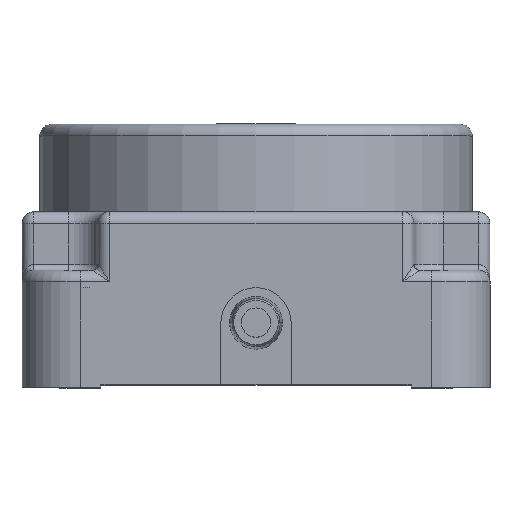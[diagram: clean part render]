
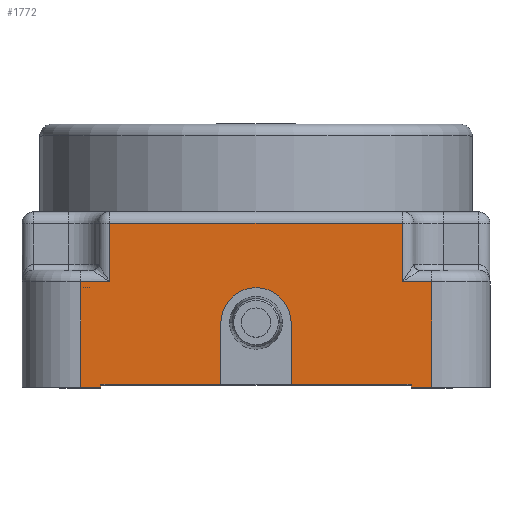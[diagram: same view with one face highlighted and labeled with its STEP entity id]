
A CAD part, top view. The second image highlights one B-rep face of the part: STEP entity #1772.
In plain terms, the highlighted planar face has unit normal (0, 0, 1).
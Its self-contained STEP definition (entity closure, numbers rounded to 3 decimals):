
#28 = LINE ( 'NONE', #821, #2143 ) ;
#107 = LINE ( 'NONE', #6150, #3847 ) ;
#197 = VECTOR ( 'NONE', #1562, 1000. ) ;
#355 = CARTESIAN_POINT ( 'NONE',  ( 21.3, 20., 24.7 ) ) ;
#410 = LINE ( 'NONE', #4731, #2867 ) ;
#430 = CARTESIAN_POINT ( 'NONE',  ( 15.3, 18., 24.7 ) ) ;
#524 = EDGE_CURVE ( 'NONE', #1176, #4737, #2815, .T. ) ;
#525 = CARTESIAN_POINT ( 'NONE',  ( 15.3, 11., 24.7 ) ) ;
#556 = VERTEX_POINT ( 'NONE', #1816 ) ;
#623 = VERTEX_POINT ( 'NONE', #2477 ) ;
#780 = EDGE_CURVE ( 'NONE', #3187, #4465, #2018, .T. ) ;
#809 = DIRECTION ( 'NONE',  ( 0., -1., 0. ) ) ;
#821 = CARTESIAN_POINT ( 'NONE',  ( 15.3, 0., 24.7 ) ) ;
#849 = DIRECTION ( 'NONE',  ( 0., 1., 0. ) ) ;
#867 = CARTESIAN_POINT ( 'NONE',  ( -9.7, 28., 24.7 ) ) ;
#911 = DIRECTION ( 'NONE',  ( 0., -1., 0. ) ) ;
#913 = VECTOR ( 'NONE', #2611, 1000. ) ;
#937 = ORIENTED_EDGE ( 'NONE', *, *, #5070, .T. ) ;
#1071 = LINE ( 'NONE', #1920, #2858 ) ;
#1074 = VECTOR ( 'NONE', #1754, 1000. ) ;
#1123 = PLANE ( 'NONE',  #6187 ) ;
#1176 = VERTEX_POINT ( 'NONE', #5505 ) ;
#1256 = CARTESIAN_POINT ( 'NONE',  ( 9.3, 11., 24.7 ) ) ;
#1334 = CARTESIAN_POINT ( 'NONE',  ( 41.8, 0.5, 24.7 ) ) ;
#1477 = FACE_OUTER_BOUND ( 'NONE', #3166, .T. ) ;
#1562 = DIRECTION ( 'NONE',  ( -1., 0., 0. ) ) ;
#1564 = DIRECTION ( 'NONE',  ( -1., 0., 0. ) ) ;
#1575 = DIRECTION ( 'NONE',  ( 1., 0., 0. ) ) ;
#1609 = CARTESIAN_POINT ( 'NONE',  ( 45.3, 0., 24.7 ) ) ;
#1632 = VECTOR ( 'NONE', #3975, 1000. ) ;
#1711 = EDGE_CURVE ( 'NONE', #3423, #3125, #6102, .T. ) ;
#1750 = EDGE_CURVE ( 'NONE', #3376, #2973, #4702, .T. ) ;
#1751 = VERTEX_POINT ( 'NONE', #3957 ) ;
#1754 = DIRECTION ( 'NONE',  ( -1., 0., 0. ) ) ;
#1757 = DIRECTION ( 'NONE',  ( 0., -1., 0. ) ) ;
#1761 = CARTESIAN_POINT ( 'NONE',  ( 40.3, 30., 24.7 ) ) ;
#1772 = ADVANCED_FACE ( 'NONE', ( #1477 ), #1123, .T. ) ;
#1816 = CARTESIAN_POINT ( 'NONE',  ( -9.7, 18., 24.7 ) ) ;
#1817 = CARTESIAN_POINT ( 'NONE',  ( 15.3, 0., 24.7 ) ) ;
#1838 = LINE ( 'NONE', #5074, #1074 ) ;
#1920 = CARTESIAN_POINT ( 'NONE',  ( 15.3, 28., 24.7 ) ) ;
#1923 = ORIENTED_EDGE ( 'NONE', *, *, #3063, .T. ) ;
#1947 = DIRECTION ( 'NONE',  ( 0., 0., 1. ) ) ;
#1959 = VERTEX_POINT ( 'NONE', #5112 ) ;
#2018 = LINE ( 'NONE', #355, #5757 ) ;
#2039 = CARTESIAN_POINT ( 'NONE',  ( 9.3, 0.5, 24.7 ) ) ;
#2068 = ORIENTED_EDGE ( 'NONE', *, *, #1750, .F. ) ;
#2143 = VECTOR ( 'NONE', #5537, 1000. ) ;
#2173 = CARTESIAN_POINT ( 'NONE',  ( 41.8, 0., 24.7 ) ) ;
#2197 = LINE ( 'NONE', #3548, #913 ) ;
#2306 = VECTOR ( 'NONE', #1757, 1000. ) ;
#2369 = VECTOR ( 'NONE', #5891, 1000. ) ;
#2477 = CARTESIAN_POINT ( 'NONE',  ( -14.7, 18., 24.7 ) ) ;
#2495 = CARTESIAN_POINT ( 'NONE',  ( 9.3, 20., 24.7 ) ) ;
#2503 = ORIENTED_EDGE ( 'NONE', *, *, #1711, .T. ) ;
#2566 = AXIS2_PLACEMENT_3D ( 'NONE', #525, #1947, #4349 ) ;
#2611 = DIRECTION ( 'NONE',  ( 0., -1., 0. ) ) ;
#2677 = VERTEX_POINT ( 'NONE', #867 ) ;
#2703 = EDGE_CURVE ( 'NONE', #3376, #4737, #4909, .T. ) ;
#2794 = LINE ( 'NONE', #1817, #5333 ) ;
#2815 = LINE ( 'NONE', #1761, #4106 ) ;
#2833 = ORIENTED_EDGE ( 'NONE', *, *, #5023, .T. ) ;
#2858 = VECTOR ( 'NONE', #1564, 1000. ) ;
#2867 = VECTOR ( 'NONE', #6060, 1000. ) ;
#2973 = VERTEX_POINT ( 'NONE', #1609 ) ;
#3020 = DIRECTION ( 'NONE',  ( 0., 0., 1. ) ) ;
#3063 = EDGE_CURVE ( 'NONE', #623, #1751, #5532, .T. ) ;
#3125 = VERTEX_POINT ( 'NONE', #1256 ) ;
#3166 = EDGE_LOOP ( 'NONE', ( #4200, #3933, #6164, #937, #3986, #2068, #4958, #3343, #4956, #2833, #3683, #1923, #3457, #5613, #5869, #2503 ) ) ;
#3187 = VERTEX_POINT ( 'NONE', #3797 ) ;
#3310 = VECTOR ( 'NONE', #3439, 1000. ) ;
#3343 = ORIENTED_EDGE ( 'NONE', *, *, #524, .F. ) ;
#3346 = VERTEX_POINT ( 'NONE', #2173 ) ;
#3376 = VERTEX_POINT ( 'NONE', #5044 ) ;
#3423 = VERTEX_POINT ( 'NONE', #4624 ) ;
#3439 = DIRECTION ( 'NONE',  ( -1., 0., 0. ) ) ;
#3457 = ORIENTED_EDGE ( 'NONE', *, *, #3822, .F. ) ;
#3548 = CARTESIAN_POINT ( 'NONE',  ( -11.2, 0.5, 24.7 ) ) ;
#3683 = ORIENTED_EDGE ( 'NONE', *, *, #5184, .T. ) ;
#3701 = VECTOR ( 'NONE', #4323, 1000. ) ;
#3797 = CARTESIAN_POINT ( 'NONE',  ( 21.3, 0.5, 24.7 ) ) ;
#3822 = EDGE_CURVE ( 'NONE', #1959, #1751, #2794, .T. ) ;
#3847 = VECTOR ( 'NONE', #911, 1000. ) ;
#3911 = CARTESIAN_POINT ( 'NONE',  ( 40.3, 18., 24.7 ) ) ;
#3933 = ORIENTED_EDGE ( 'NONE', *, *, #780, .F. ) ;
#3957 = CARTESIAN_POINT ( 'NONE',  ( -14.7, 0., 24.7 ) ) ;
#3975 = DIRECTION ( 'NONE',  ( 0., -1., 0. ) ) ;
#3986 = ORIENTED_EDGE ( 'NONE', *, *, #4899, .F. ) ;
#4051 = CARTESIAN_POINT ( 'NONE',  ( -11.2, 0.5, 24.7 ) ) ;
#4073 = EDGE_CURVE ( 'NONE', #1176, #2677, #1071, .T. ) ;
#4106 = VECTOR ( 'NONE', #809, 1000. ) ;
#4138 = EDGE_CURVE ( 'NONE', #3423, #4215, #5860, .T. ) ;
#4200 = ORIENTED_EDGE ( 'NONE', *, *, #5783, .F. ) ;
#4215 = VERTEX_POINT ( 'NONE', #4051 ) ;
#4323 = DIRECTION ( 'NONE',  ( -1., 0., 0. ) ) ;
#4349 = DIRECTION ( 'NONE',  ( 1., 0., 0. ) ) ;
#4465 = VERTEX_POINT ( 'NONE', #5708 ) ;
#4624 = CARTESIAN_POINT ( 'NONE',  ( 9.3, 0.5, 24.7 ) ) ;
#4702 = LINE ( 'NONE', #5439, #1632 ) ;
#4731 = CARTESIAN_POINT ( 'NONE',  ( 41.8, 0.5, 24.7 ) ) ;
#4737 = VERTEX_POINT ( 'NONE', #3911 ) ;
#4796 = CARTESIAN_POINT ( 'NONE',  ( 15.3, 18., 24.7 ) ) ;
#4880 = CIRCLE ( 'NONE', #2566, 6. ) ;
#4899 = EDGE_CURVE ( 'NONE', #2973, #3346, #28, .T. ) ;
#4909 = LINE ( 'NONE', #4796, #197 ) ;
#4935 = CARTESIAN_POINT ( 'NONE',  ( 15.3, 20., 24.7 ) ) ;
#4956 = ORIENTED_EDGE ( 'NONE', *, *, #4073, .T. ) ;
#4958 = ORIENTED_EDGE ( 'NONE', *, *, #2703, .T. ) ;
#4990 = CARTESIAN_POINT ( 'NONE',  ( -14.7, 20., 24.7 ) ) ;
#5023 = EDGE_CURVE ( 'NONE', #2677, #556, #107, .T. ) ;
#5044 = CARTESIAN_POINT ( 'NONE',  ( 45.3, 18., 24.7 ) ) ;
#5070 = EDGE_CURVE ( 'NONE', #5545, #3346, #410, .T. ) ;
#5074 = CARTESIAN_POINT ( 'NONE',  ( 41.8, 0.5, 24.7 ) ) ;
#5112 = CARTESIAN_POINT ( 'NONE',  ( -11.2, 0., 24.7 ) ) ;
#5184 = EDGE_CURVE ( 'NONE', #556, #623, #5728, .T. ) ;
#5333 = VECTOR ( 'NONE', #5641, 1000. ) ;
#5439 = CARTESIAN_POINT ( 'NONE',  ( 45.3, 20., 24.7 ) ) ;
#5476 = EDGE_CURVE ( 'NONE', #5545, #3187, #1838, .T. ) ;
#5505 = CARTESIAN_POINT ( 'NONE',  ( 40.3, 28., 24.7 ) ) ;
#5532 = LINE ( 'NONE', #4990, #2306 ) ;
#5537 = DIRECTION ( 'NONE',  ( -1., 0., 0. ) ) ;
#5545 = VERTEX_POINT ( 'NONE', #1334 ) ;
#5613 = ORIENTED_EDGE ( 'NONE', *, *, #5906, .F. ) ;
#5641 = DIRECTION ( 'NONE',  ( -1., 0., 0. ) ) ;
#5708 = CARTESIAN_POINT ( 'NONE',  ( 21.3, 11., 24.7 ) ) ;
#5728 = LINE ( 'NONE', #430, #3701 ) ;
#5757 = VECTOR ( 'NONE', #849, 1000. ) ;
#5783 = EDGE_CURVE ( 'NONE', #4465, #3125, #4880, .T. ) ;
#5860 = LINE ( 'NONE', #2039, #3310 ) ;
#5869 = ORIENTED_EDGE ( 'NONE', *, *, #4138, .F. ) ;
#5891 = DIRECTION ( 'NONE',  ( 0., 1., 0. ) ) ;
#5906 = EDGE_CURVE ( 'NONE', #4215, #1959, #2197, .T. ) ;
#6060 = DIRECTION ( 'NONE',  ( 0., -1., 0. ) ) ;
#6102 = LINE ( 'NONE', #2495, #2369 ) ;
#6150 = CARTESIAN_POINT ( 'NONE',  ( -9.7, 30., 24.7 ) ) ;
#6164 = ORIENTED_EDGE ( 'NONE', *, *, #5476, .F. ) ;
#6187 = AXIS2_PLACEMENT_3D ( 'NONE', #4935, #3020, #1575 ) ;
